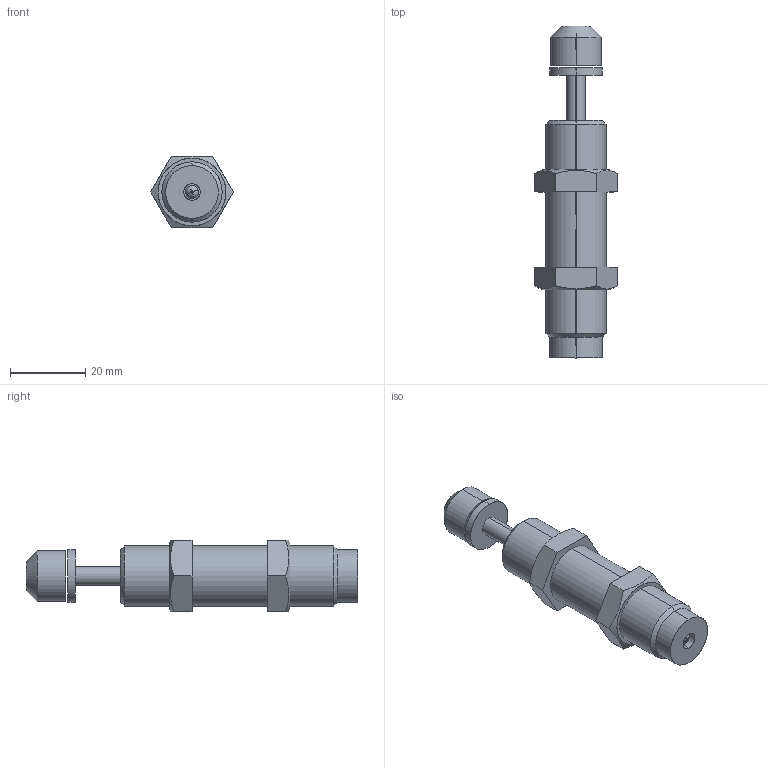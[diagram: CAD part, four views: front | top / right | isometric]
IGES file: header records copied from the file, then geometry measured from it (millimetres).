
Start section: SolidWorks IGES file using analytic representation for surfaces
Global section: file name: Y:\CAD\HP梡CAD僨乕僞\210305_HP峏怴梡\3D\FK-1612-R.IGS; native system: SolidWorks 2021; preprocessor: SolidWorks 2021; author: flgijutsu; date: 210310.161058; units: millimetre
Bounding box: 21.94 x 88.2 x 19 mm (x, y, z)
Surface area: 6504.3 mm2 (no closed solid volume)
Topology: 0 solids, 0 shells, 86 faces, 1440 edges, 1440 vertices
Faces by surface type: bspline 50, revolution 36
